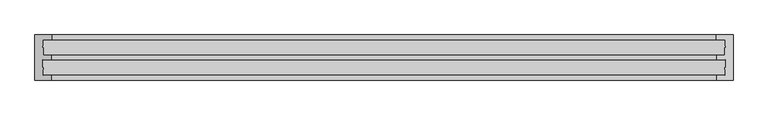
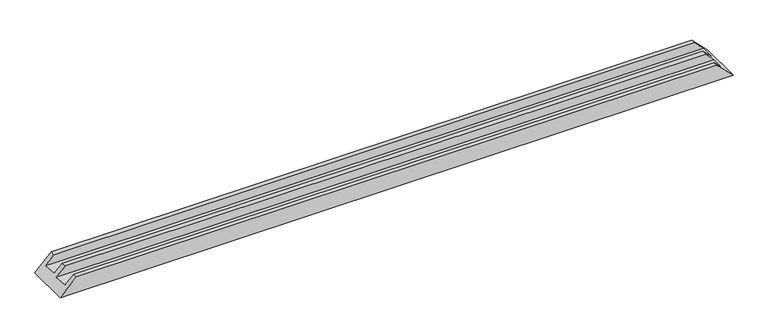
"""IFC4 building model written with IfcOpenShell, lengths in millimetres: proxy geometry, Weiku - Montante - Caixilho triplo 02.2.01.003 : Weiku - Montante - Caixilho triplo 02.2.01.003."""

from ifc_helpers import new_model, si_unit, origin, place, context, project, spatial, faceted_brep, source, transform, mapped, element, save


def generic_models_3c7bf91a(model_context):
    return source(origin(), model_context, "Body", "Brep", [
        faceted_brep([(-1049.5, 15.0, 26.0), (-1023.5, 15.0, 52.0), (1023.5, 15.0, 52.0), (1049.5, 15.0, 26.0), (-1051.7229744, 62.0, 23.7770256), (1051.7229744, 62.0, 23.7770256), (-1023.5, 62.0, 52.0), (1023.5, 62.0, 52.0), (-1023.5, 77.0, 52.0), (1023.5, 77.0, 52.0), (-1075.5, 139.0, 0.0), (1075.5, 139.0, 0.0), (1075.5, 0.0, 0.0), (-1075.5, 0.0, 0.0), (1023.5, 0.0, 52.0), (-1023.5, 0.0, 52.0), (-1049.5, 77.0, 26.0), (-1051.7229744, 124.0, 23.7770256), (-1023.5, 124.0, 52.0), (-1023.5, 139.0, 52.0), (1023.5, 139.0, 52.0), (1023.5, 124.0, 52.0), (1051.7229744, 124.0, 23.7770256), (1049.5, 77.0, 26.0)], [[[0, 1, 2, 3]], [[4, 0, 3, 5]], [[6, 4, 5, 7]], [[8, 6, 7, 9]], [[10, 11, 12, 13]], [[13, 12, 14, 15]], [[1, 15, 14, 2]], [[1, 0, 4, 6, 8, 16, 17, 18, 19, 10, 13, 15]], [[3, 2, 14, 12, 11, 20, 21, 22, 23, 9, 7, 5]], [[16, 8, 9, 23]], [[17, 16, 23, 22]], [[18, 17, 22, 21]], [[19, 18, 21, 20]], [[11, 10, 19, 20]]]),
    ])


if __name__ == "__main__":
    model = new_model("IFC4")
    model_context = context("Model", 3, world=origin())
    ifc_project = project(units=[si_unit("LENGTHUNIT", "METRE", prefix="MILLI")], contexts=[model_context])
    site = spatial("IfcSite", under=ifc_project)
    building = spatial("IfcBuilding", under=site)
    placement = place(None, origin())
    generic_models_shape = generic_models_3c7bf91a(model_context)
    element("IfcBuildingElementProxy", 1, Name="Weiku - Montante - Caixilho triplo 02.2.01.003 : Weiku - Montante - Caixilho triplo 02.2.01.003", ObjectType="Weiku - Montante - Caixilho triplo 02.2.01.003 : Weiku - Montante - Caixilho triplo 02.2.01.003", at=placement, inside=building, context=model_context, shape_type="MappedRepresentation", body=[
        mapped(generic_models_shape, transform((0.0, 0.0, 0.0), x_axis=(1.0, 0.0, 0.0), y_axis=(0.0, 1.0, 0.0), z_axis=(0.0, 0.0, 1.0))),
    ])
    save(model, "model.ifc")
